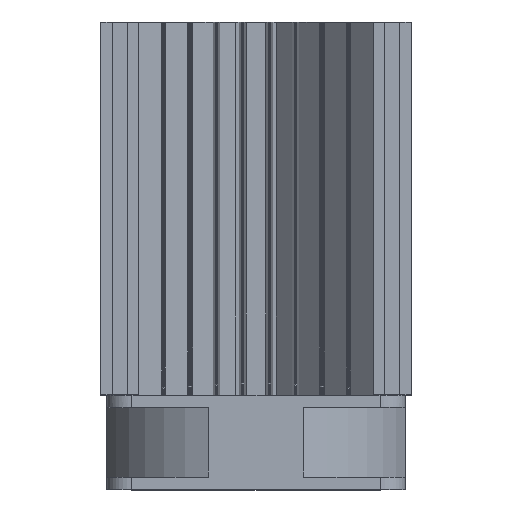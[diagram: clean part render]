
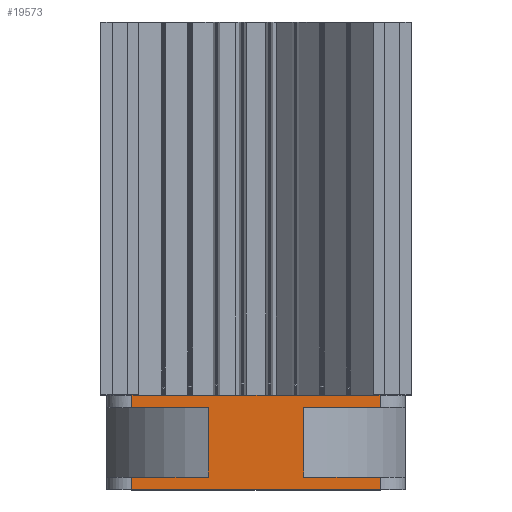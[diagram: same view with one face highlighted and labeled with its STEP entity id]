
A CAD part, top view. The second image highlights one B-rep face of the part: STEP entity #19573.
In plain terms, the highlighted planar face has unit normal (0, 0, 1).
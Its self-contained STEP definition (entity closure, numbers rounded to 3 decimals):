
#15 = VERTEX_POINT ( 'NONE', #7671 ) ;
#204 = VERTEX_POINT ( 'NONE', #18107 ) ;
#351 = LINE ( 'NONE', #2007, #22434 ) ;
#462 = LINE ( 'NONE', #26279, #11335 ) ;
#684 = VECTOR ( 'NONE', #16695, 1000. ) ;
#946 = EDGE_CURVE ( 'NONE', #15, #4247, #1050, .T. ) ;
#1050 = LINE ( 'NONE', #9547, #10050 ) ;
#1373 = VERTEX_POINT ( 'NONE', #7941 ) ;
#1421 = VECTOR ( 'NONE', #16334, 1000. ) ;
#1617 = LINE ( 'NONE', #18911, #26981 ) ;
#1883 = LINE ( 'NONE', #10415, #684 ) ;
#1933 = EDGE_CURVE ( 'NONE', #9113, #19205, #3416, .T. ) ;
#2007 = CARTESIAN_POINT ( 'NONE',  ( 8.8, 38., 121. ) ) ;
#2481 = FACE_OUTER_BOUND ( 'NONE', #10765, .T. ) ;
#2637 = VERTEX_POINT ( 'NONE', #10480 ) ;
#3059 = LINE ( 'NONE', #22210, #24946 ) ;
#3416 = LINE ( 'NONE', #22150, #24186 ) ;
#3702 = DIRECTION ( 'NONE',  ( 1., 0., 0. ) ) ;
#4247 = VERTEX_POINT ( 'NONE', #26804 ) ;
#4318 = ORIENTED_EDGE ( 'NONE', *, *, #1933, .F. ) ;
#4535 = DIRECTION ( 'NONE',  ( 0., -1., 0. ) ) ;
#4811 = CARTESIAN_POINT ( 'NONE',  ( 81.709, 38., 121. ) ) ;
#4928 = ORIENTED_EDGE ( 'NONE', *, *, #6774, .F. ) ;
#5314 = VECTOR ( 'NONE', #26886, 1000. ) ;
#5431 = LINE ( 'NONE', #14496, #14484 ) ;
#6532 = DIRECTION ( 'NONE',  ( -1., 0., 0. ) ) ;
#6774 = EDGE_CURVE ( 'NONE', #204, #15011, #462, .T. ) ;
#6891 = DIRECTION ( 'NONE',  ( 0., -1., 0. ) ) ;
#6986 = DIRECTION ( 'NONE',  ( -1., 0., 0. ) ) ;
#7011 = ORIENTED_EDGE ( 'NONE', *, *, #946, .F. ) ;
#7232 = VECTOR ( 'NONE', #4535, 1000. ) ;
#7431 = ORIENTED_EDGE ( 'NONE', *, *, #16595, .T. ) ;
#7671 = CARTESIAN_POINT ( 'NONE',  ( 112.5, 38., 121. ) ) ;
#7941 = CARTESIAN_POINT ( 'NONE',  ( 81.709, 33., 121. ) ) ;
#8125 = LINE ( 'NONE', #18770, #5314 ) ;
#8173 = CARTESIAN_POINT ( 'NONE',  ( 2.5, 38., 121. ) ) ;
#9113 = VERTEX_POINT ( 'NONE', #11444 ) ;
#9547 = CARTESIAN_POINT ( 'NONE',  ( 112.5, 38., 121. ) ) ;
#10043 = CARTESIAN_POINT ( 'NONE',  ( 12.5, 5., 121. ) ) ;
#10050 = VECTOR ( 'NONE', #6891, 1000. ) ;
#10096 = ORIENTED_EDGE ( 'NONE', *, *, #12296, .F. ) ;
#10415 = CARTESIAN_POINT ( 'NONE',  ( 2.5, 33., 121. ) ) ;
#10461 = EDGE_CURVE ( 'NONE', #15269, #25311, #351, .T. ) ;
#10480 = CARTESIAN_POINT ( 'NONE',  ( 81.709, 5., 121. ) ) ;
#10765 = EDGE_LOOP ( 'NONE', ( #11048, #15143, #24423, #7011, #23336, #7431, #18679, #12003, #4928, #15674, #10096, #4318, #16222, #24902 ) ) ;
#11048 = ORIENTED_EDGE ( 'NONE', *, *, #26165, .F. ) ;
#11259 = DIRECTION ( 'NONE',  ( 0., 0., -1. ) ) ;
#11335 = VECTOR ( 'NONE', #6986, 1000. ) ;
#11432 = DIRECTION ( 'NONE',  ( 0., -1., 0. ) ) ;
#11444 = CARTESIAN_POINT ( 'NONE',  ( 12.5, 0., 121. ) ) ;
#11905 = DIRECTION ( 'NONE',  ( 0., 1., 0. ) ) ;
#12003 = ORIENTED_EDGE ( 'NONE', *, *, #21090, .F. ) ;
#12075 = CARTESIAN_POINT ( 'NONE',  ( 43.291, 38., 121. ) ) ;
#12296 = EDGE_CURVE ( 'NONE', #19205, #26249, #26861, .T. ) ;
#13824 = CARTESIAN_POINT ( 'NONE',  ( 12.5, 38., 121. ) ) ;
#14343 = VERTEX_POINT ( 'NONE', #26628 ) ;
#14484 = VECTOR ( 'NONE', #18401, 1000. ) ;
#14496 = CARTESIAN_POINT ( 'NONE',  ( 2.5, 0., 121. ) ) ;
#15011 = VERTEX_POINT ( 'NONE', #27297 ) ;
#15143 = ORIENTED_EDGE ( 'NONE', *, *, #21964, .F. ) ;
#15269 = VERTEX_POINT ( 'NONE', #15329 ) ;
#15273 = DIRECTION ( 'NONE',  ( -1., 0., 0. ) ) ;
#15329 = CARTESIAN_POINT ( 'NONE',  ( 13.25, 38., 121. ) ) ;
#15674 = ORIENTED_EDGE ( 'NONE', *, *, #26033, .F. ) ;
#16222 = ORIENTED_EDGE ( 'NONE', *, *, #24242, .F. ) ;
#16334 = DIRECTION ( 'NONE',  ( 0., 1., 0. ) ) ;
#16595 = EDGE_CURVE ( 'NONE', #14343, #15269, #17145, .T. ) ;
#16695 = DIRECTION ( 'NONE',  ( -1., 0., 0. ) ) ;
#16739 = CARTESIAN_POINT ( 'NONE',  ( 12.5, 38., 121. ) ) ;
#16988 = CARTESIAN_POINT ( 'NONE',  ( 112.5, 0., 121. ) ) ;
#17145 = LINE ( 'NONE', #8173, #21980 ) ;
#17240 = VERTEX_POINT ( 'NONE', #18753 ) ;
#17283 = PLANE ( 'NONE',  #26579 ) ;
#17548 = DIRECTION ( 'NONE',  ( 0., 1., 0. ) ) ;
#17757 = VECTOR ( 'NONE', #22578, 1000. ) ;
#18107 = CARTESIAN_POINT ( 'NONE',  ( 43.291, 33., 121. ) ) ;
#18155 = EDGE_CURVE ( 'NONE', #4247, #1373, #1883, .T. ) ;
#18401 = DIRECTION ( 'NONE',  ( -1., 0., 0. ) ) ;
#18679 = ORIENTED_EDGE ( 'NONE', *, *, #10461, .T. ) ;
#18753 = CARTESIAN_POINT ( 'NONE',  ( 112.5, 5., 121. ) ) ;
#18770 = CARTESIAN_POINT ( 'NONE',  ( 2.5, 5., 121. ) ) ;
#18911 = CARTESIAN_POINT ( 'NONE',  ( 2.5, 38., 121. ) ) ;
#19205 = VERTEX_POINT ( 'NONE', #10043 ) ;
#19374 = VECTOR ( 'NONE', #3702, 1000. ) ;
#19523 = CARTESIAN_POINT ( 'NONE',  ( 2.5, 38., 121. ) ) ;
#19573 = ADVANCED_FACE ( 'NONE', ( #2481 ), #17283, .F. ) ;
#20750 = CARTESIAN_POINT ( 'NONE',  ( 2.5, 5., 121. ) ) ;
#20905 = LINE ( 'NONE', #12075, #17757 ) ;
#21090 = EDGE_CURVE ( 'NONE', #15011, #25311, #24581, .T. ) ;
#21671 = VERTEX_POINT ( 'NONE', #16988 ) ;
#21964 = EDGE_CURVE ( 'NONE', #1373, #2637, #23533, .T. ) ;
#21980 = VECTOR ( 'NONE', #6532, 1000. ) ;
#22150 = CARTESIAN_POINT ( 'NONE',  ( 12.5, 38., 121. ) ) ;
#22210 = CARTESIAN_POINT ( 'NONE',  ( 112.5, 38., 121. ) ) ;
#22434 = VECTOR ( 'NONE', #15273, 1000. ) ;
#22578 = DIRECTION ( 'NONE',  ( 0., 1., 0. ) ) ;
#22745 = EDGE_CURVE ( 'NONE', #15, #14343, #1617, .T. ) ;
#23336 = ORIENTED_EDGE ( 'NONE', *, *, #22745, .T. ) ;
#23533 = LINE ( 'NONE', #4811, #7232 ) ;
#24186 = VECTOR ( 'NONE', #11905, 1000. ) ;
#24242 = EDGE_CURVE ( 'NONE', #21671, #9113, #5431, .T. ) ;
#24423 = ORIENTED_EDGE ( 'NONE', *, *, #18155, .F. ) ;
#24581 = LINE ( 'NONE', #13824, #1421 ) ;
#24902 = ORIENTED_EDGE ( 'NONE', *, *, #27014, .F. ) ;
#24946 = VECTOR ( 'NONE', #11432, 1000. ) ;
#25311 = VERTEX_POINT ( 'NONE', #16739 ) ;
#26033 = EDGE_CURVE ( 'NONE', #26249, #204, #20905, .T. ) ;
#26165 = EDGE_CURVE ( 'NONE', #2637, #17240, #8125, .T. ) ;
#26249 = VERTEX_POINT ( 'NONE', #27276 ) ;
#26279 = CARTESIAN_POINT ( 'NONE',  ( 2.5, 33., 121. ) ) ;
#26579 = AXIS2_PLACEMENT_3D ( 'NONE', #19523, #11259, #17548 ) ;
#26628 = CARTESIAN_POINT ( 'NONE',  ( 111.75, 38., 121. ) ) ;
#26804 = CARTESIAN_POINT ( 'NONE',  ( 112.5, 33., 121. ) ) ;
#26861 = LINE ( 'NONE', #20750, #19374 ) ;
#26886 = DIRECTION ( 'NONE',  ( 1., 0., 0. ) ) ;
#26981 = VECTOR ( 'NONE', #27428, 1000. ) ;
#27014 = EDGE_CURVE ( 'NONE', #17240, #21671, #3059, .T. ) ;
#27276 = CARTESIAN_POINT ( 'NONE',  ( 43.291, 5., 121. ) ) ;
#27297 = CARTESIAN_POINT ( 'NONE',  ( 12.5, 33., 121. ) ) ;
#27428 = DIRECTION ( 'NONE',  ( -1., 0., 0. ) ) ;
